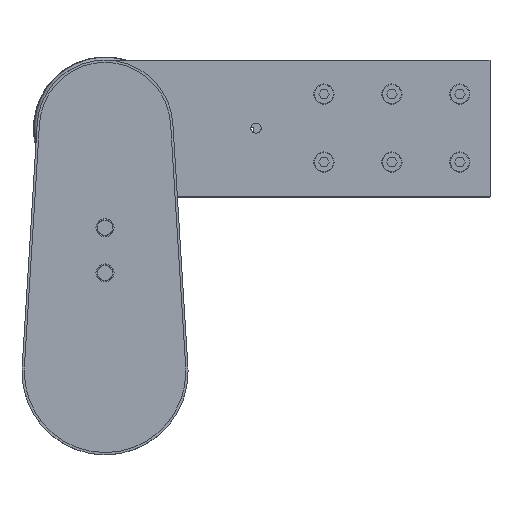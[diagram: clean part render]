
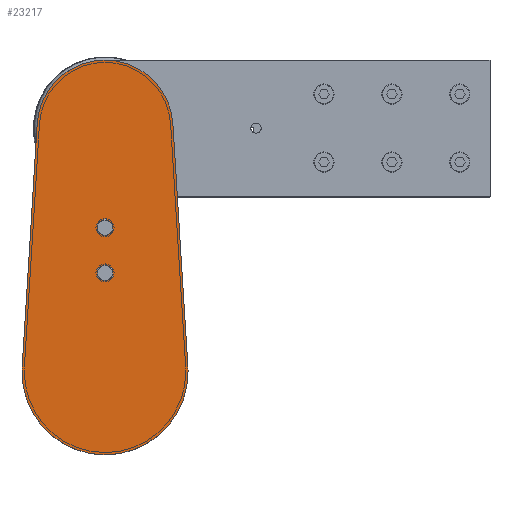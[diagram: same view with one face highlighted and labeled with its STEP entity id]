
A CAD part, top view. The second image highlights one B-rep face of the part: STEP entity #23217.
In plain terms, the highlighted planar face has unit normal (0, 0, 1) as drawn and (0, 0, -1) by its records, which use the part's own axes.
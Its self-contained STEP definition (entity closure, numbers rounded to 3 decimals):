
#75 = CARTESIAN_POINT ( 'NONE',  ( 3.5, 65.5, 0. ) ) ;
#100 = CARTESIAN_POINT ( 'NONE',  ( 54.894, 3.406, 0. ) ) ;
#134 = CARTESIAN_POINT ( 'NONE',  ( 44.914, 164.286, 0. ) ) ;
#146 = CARTESIAN_POINT ( 'NONE',  ( 3.5, 95.5, 0. ) ) ;
#171 = CARTESIAN_POINT ( 'NONE',  ( -3.5, 95.5, 0. ) ) ;
#198 = CARTESIAN_POINT ( 'NONE',  ( -3.5, 65.5, 0. ) ) ;
#233 = CARTESIAN_POINT ( 'NONE',  ( -44.914, 164.286, 0. ) ) ;
#329 = CARTESIAN_POINT ( 'NONE',  ( -54.894, 3.406, 0. ) ) ;
#394 = CARTESIAN_POINT ( 'NONE',  ( 55., 0., 0. ) ) ;
#404 = CARTESIAN_POINT ( 'NONE',  ( -55., 0., 0. ) ) ;
#12192 = EDGE_CURVE ( 'NONE', #50150, #50175, #25368, .T. ) ;
#12196 = EDGE_CURVE ( 'NONE', #50079, #50202, #25380, .T. ) ;
#12209 = EDGE_CURVE ( 'NONE', #50398, #50104, #25447, .T. ) ;
#12213 = EDGE_CURVE ( 'NONE', #50408, #50398, #25472, .T. ) ;
#12222 = EDGE_CURVE ( 'NONE', #50138, #50237, #25529, .T. ) ;
#12226 = EDGE_CURVE ( 'NONE', #50237, #50333, #31601, .T. ) ;
#12230 = EDGE_CURVE ( 'NONE', #50333, #50408, #25555, .T. ) ;
#12231 = EDGE_CURVE ( 'NONE', #50104, #50138, #31630, .T. ) ;
#12233 = EDGE_CURVE ( 'NONE', #50175, #50150, #25577, .T. ) ;
#12234 = EDGE_CURVE ( 'NONE', #50202, #50079, #25579, .T. ) ;
#20614 = AXIS2_PLACEMENT_3D ( 'NONE', #53311, #53312, #53313 ) ;
#23217 = ADVANCED_FACE ( 'NONE', ( #53308, #53300, #53303 ), #53310, .F. ) ;
#25368 = CIRCLE ( 'NONE', #25383, 3.5 ) ;
#25380 = CIRCLE ( 'NONE', #25455, 3.5 ) ;
#25383 = AXIS2_PLACEMENT_3D ( 'NONE', #31274, #31276, #31279 ) ;
#25447 = CIRCLE ( 'NONE', #25465, 55. ) ;
#25455 = AXIS2_PLACEMENT_3D ( 'NONE', #31313, #31316, #31318 ) ;
#25465 = AXIS2_PLACEMENT_3D ( 'NONE', #31441, #31443, #31446 ) ;
#25472 = CIRCLE ( 'NONE', #25489, 55. ) ;
#25489 = AXIS2_PLACEMENT_3D ( 'NONE', #31478, #31480, #31482 ) ;
#25529 = CIRCLE ( 'NONE', #25538, 45. ) ;
#25538 = AXIS2_PLACEMENT_3D ( 'NONE', #31572, #31573, #31576 ) ;
#25550 = VECTOR ( 'NONE', #31608, 1000. ) ;
#25555 = CIRCLE ( 'NONE', #25573, 55. ) ;
#25571 = VECTOR ( 'NONE', #31654, 1000. ) ;
#25573 = AXIS2_PLACEMENT_3D ( 'NONE', #31646, #31648, #31651 ) ;
#25577 = CIRCLE ( 'NONE', #25581, 3.5 ) ;
#25579 = CIRCLE ( 'NONE', #25590, 3.5 ) ;
#25581 = AXIS2_PLACEMENT_3D ( 'NONE', #31674, #31677, #31678 ) ;
#25590 = AXIS2_PLACEMENT_3D ( 'NONE', #31684, #31687, #31690 ) ;
#31274 = CARTESIAN_POINT ( 'NONE',  ( 0., 95.5, 0. ) ) ;
#31276 = DIRECTION ( 'NONE',  ( 0., 0., -1. ) ) ;
#31279 = DIRECTION ( 'NONE',  ( 1., 0., 0. ) ) ;
#31313 = CARTESIAN_POINT ( 'NONE',  ( 0., 65.5, 0. ) ) ;
#31316 = DIRECTION ( 'NONE',  ( 0., 0., -1. ) ) ;
#31318 = DIRECTION ( 'NONE',  ( 1., 0., 0. ) ) ;
#31441 = CARTESIAN_POINT ( 'NONE',  ( 0., 0., 0. ) ) ;
#31443 = DIRECTION ( 'NONE',  ( 0., 0., 1. ) ) ;
#31446 = DIRECTION ( 'NONE',  ( 1., 0., 0. ) ) ;
#31478 = CARTESIAN_POINT ( 'NONE',  ( 0., 0., 0. ) ) ;
#31480 = DIRECTION ( 'NONE',  ( 0., 0., 1. ) ) ;
#31482 = DIRECTION ( 'NONE',  ( 1., 0., 0. ) ) ;
#31572 = CARTESIAN_POINT ( 'NONE',  ( 0., 161.5, 0. ) ) ;
#31573 = DIRECTION ( 'NONE',  ( 0., 0., 1. ) ) ;
#31576 = DIRECTION ( 'NONE',  ( 1., 0., 0. ) ) ;
#31601 = LINE ( 'NONE', #31605, #25550 ) ;
#31605 = CARTESIAN_POINT ( 'NONE',  ( -44.914, 164.286, 0. ) ) ;
#31608 = DIRECTION ( 'NONE',  ( -0.062, -0.998, 0. ) ) ;
#31630 = LINE ( 'NONE', #31633, #25571 ) ;
#31633 = CARTESIAN_POINT ( 'NONE',  ( 44.914, 164.286, 0. ) ) ;
#31646 = CARTESIAN_POINT ( 'NONE',  ( 0., 0., 0. ) ) ;
#31648 = DIRECTION ( 'NONE',  ( 0., 0., 1. ) ) ;
#31651 = DIRECTION ( 'NONE',  ( 1., 0., 0. ) ) ;
#31654 = DIRECTION ( 'NONE',  ( -0.062, 0.998, 0. ) ) ;
#31674 = CARTESIAN_POINT ( 'NONE',  ( 0., 95.5, 0. ) ) ;
#31677 = DIRECTION ( 'NONE',  ( 0., 0., -1. ) ) ;
#31678 = DIRECTION ( 'NONE',  ( 1., 0., 0. ) ) ;
#31684 = CARTESIAN_POINT ( 'NONE',  ( 0., 65.5, 0. ) ) ;
#31687 = DIRECTION ( 'NONE',  ( 0., 0., -1. ) ) ;
#31690 = DIRECTION ( 'NONE',  ( 1., 0., 0. ) ) ;
#37996 = ORIENTED_EDGE ( 'NONE', *, *, #12192, .F. ) ;
#37997 = ORIENTED_EDGE ( 'NONE', *, *, #12233, .F. ) ;
#37999 = ORIENTED_EDGE ( 'NONE', *, *, #12196, .F. ) ;
#38001 = ORIENTED_EDGE ( 'NONE', *, *, #12234, .F. ) ;
#38002 = ORIENTED_EDGE ( 'NONE', *, *, #12222, .F. ) ;
#38003 = ORIENTED_EDGE ( 'NONE', *, *, #12231, .F. ) ;
#38005 = ORIENTED_EDGE ( 'NONE', *, *, #12209, .F. ) ;
#38007 = ORIENTED_EDGE ( 'NONE', *, *, #12213, .F. ) ;
#38009 = ORIENTED_EDGE ( 'NONE', *, *, #12230, .F. ) ;
#38011 = ORIENTED_EDGE ( 'NONE', *, *, #12226, .F. ) ;
#43702 = EDGE_LOOP ( 'NONE', ( #37996, #37997 ) ) ;
#43707 = EDGE_LOOP ( 'NONE', ( #38002, #38003, #38005, #38007, #38009, #38011 ) ) ;
#43708 = EDGE_LOOP ( 'NONE', ( #37999, #38001 ) ) ;
#50079 = VERTEX_POINT ( 'NONE', #75 ) ;
#50104 = VERTEX_POINT ( 'NONE', #100 ) ;
#50138 = VERTEX_POINT ( 'NONE', #134 ) ;
#50150 = VERTEX_POINT ( 'NONE', #146 ) ;
#50175 = VERTEX_POINT ( 'NONE', #171 ) ;
#50202 = VERTEX_POINT ( 'NONE', #198 ) ;
#50237 = VERTEX_POINT ( 'NONE', #233 ) ;
#50333 = VERTEX_POINT ( 'NONE', #329 ) ;
#50398 = VERTEX_POINT ( 'NONE', #394 ) ;
#50408 = VERTEX_POINT ( 'NONE', #404 ) ;
#53300 = FACE_BOUND ( 'NONE', #43708, .T. ) ;
#53303 = FACE_OUTER_BOUND ( 'NONE', #43707, .T. ) ;
#53308 = FACE_BOUND ( 'NONE', #43702, .T. ) ;
#53310 = PLANE ( 'NONE',  #20614 ) ;
#53311 = CARTESIAN_POINT ( 'NONE',  ( 0., 161.5, 0. ) ) ;
#53312 = DIRECTION ( 'NONE',  ( 0., 0., 1. ) ) ;
#53313 = DIRECTION ( 'NONE',  ( 1., 0., 0. ) ) ;
